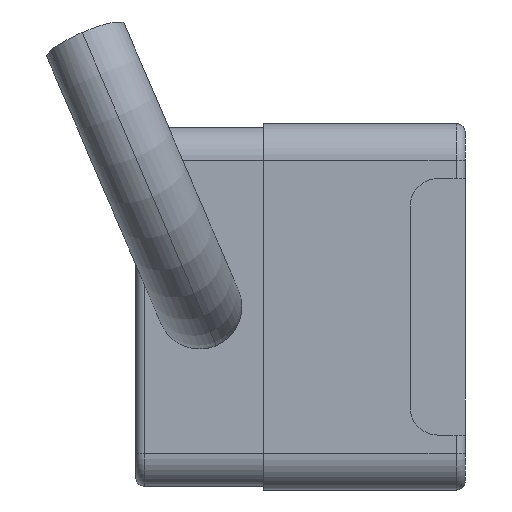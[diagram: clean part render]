
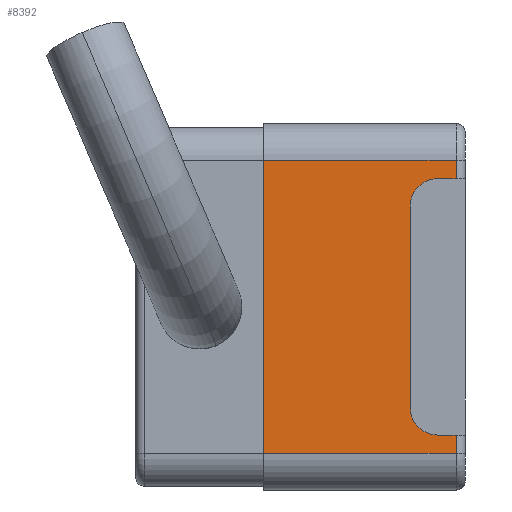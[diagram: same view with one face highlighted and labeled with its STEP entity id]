
A CAD part, left-side view. The second image highlights one B-rep face of the part: STEP entity #8392.
In plain terms, the highlighted planar face has unit normal (-1, 0, 0).
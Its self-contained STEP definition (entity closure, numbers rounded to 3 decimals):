
#645 = LINE ( 'NONE', #18515, #34748 ) ;
#906 = EDGE_CURVE ( 'NONE', #22354, #38341, #6387, .T. ) ;
#1190 = EDGE_CURVE ( 'NONE', #38341, #4921, #38530, .T. ) ;
#1399 = CARTESIAN_POINT ( 'NONE',  ( -29., 3., 5.5 ) ) ;
#1416 = LINE ( 'NONE', #26604, #11316 ) ;
#1707 = VECTOR ( 'NONE', #28658, 1000. ) ;
#2335 = VERTEX_POINT ( 'NONE', #19819 ) ;
#2623 = CARTESIAN_POINT ( 'NONE',  ( -29., 11., -8. ) ) ;
#2825 = LINE ( 'NONE', #16798, #9719 ) ;
#3538 = DIRECTION ( 'NONE',  ( 0., 0., 1. ) ) ;
#3959 = DIRECTION ( 'NONE',  ( 0., 0., -1. ) ) ;
#4315 = DIRECTION ( 'NONE',  ( 0., 0., -1. ) ) ;
#4409 = EDGE_LOOP ( 'NONE', ( #32370, #28076, #7378, #15731, #39833, #7753, #40887, #23456, #39474, #16078 ) ) ;
#4921 = VERTEX_POINT ( 'NONE', #1399 ) ;
#5326 = VERTEX_POINT ( 'NONE', #30192 ) ;
#6387 = LINE ( 'NONE', #25136, #37779 ) ;
#6443 = VERTEX_POINT ( 'NONE', #14800 ) ;
#6631 = EDGE_CURVE ( 'NONE', #10278, #25390, #12970, .T. ) ;
#6984 = LINE ( 'NONE', #20963, #26094 ) ;
#7378 = ORIENTED_EDGE ( 'NONE', *, *, #34132, .T. ) ;
#7753 = ORIENTED_EDGE ( 'NONE', *, *, #41435, .F. ) ;
#8392 = ADVANCED_FACE ( 'NONE', ( #32332 ), #24993, .F. ) ;
#8580 = CARTESIAN_POINT ( 'NONE',  ( -29., 0., -7. ) ) ;
#9540 = EDGE_CURVE ( 'NONE', #6443, #16071, #23466, .T. ) ;
#9719 = VECTOR ( 'NONE', #44752, 1000. ) ;
#9937 = CARTESIAN_POINT ( 'NONE',  ( -29., 11., 8. ) ) ;
#10278 = VERTEX_POINT ( 'NONE', #2623 ) ;
#11316 = VECTOR ( 'NONE', #22724, 1000. ) ;
#11764 = CARTESIAN_POINT ( 'NONE',  ( -29., 1.5, 7. ) ) ;
#12218 = AXIS2_PLACEMENT_3D ( 'NONE', #29259, #41390, #3959 ) ;
#12970 = LINE ( 'NONE', #32903, #24864 ) ;
#13207 = AXIS2_PLACEMENT_3D ( 'NONE', #26720, #42480, #13643 ) ;
#13643 = DIRECTION ( 'NONE',  ( 0., 0., -1. ) ) ;
#13981 = AXIS2_PLACEMENT_3D ( 'NONE', #32107, #15164, #28656 ) ;
#14152 = DIRECTION ( 'NONE',  ( 0., 1., 0. ) ) ;
#14582 = EDGE_CURVE ( 'NONE', #16071, #2335, #39970, .T. ) ;
#14800 = CARTESIAN_POINT ( 'NONE',  ( -29., 3., -5.5 ) ) ;
#15164 = DIRECTION ( 'NONE',  ( 1., 0., 0. ) ) ;
#15731 = ORIENTED_EDGE ( 'NONE', *, *, #14582, .F. ) ;
#15950 = DIRECTION ( 'NONE',  ( 0., -1., 0. ) ) ;
#16071 = VERTEX_POINT ( 'NONE', #43597 ) ;
#16078 = ORIENTED_EDGE ( 'NONE', *, *, #32590, .T. ) ;
#16798 = CARTESIAN_POINT ( 'NONE',  ( -29., 0.5, 8. ) ) ;
#18515 = CARTESIAN_POINT ( 'NONE',  ( -29., 3., -5.5 ) ) ;
#19819 = CARTESIAN_POINT ( 'NONE',  ( -29., 0.5, -7. ) ) ;
#20963 = CARTESIAN_POINT ( 'NONE',  ( -29., 0.5, 8. ) ) ;
#22354 = VERTEX_POINT ( 'NONE', #43600 ) ;
#22724 = DIRECTION ( 'NONE',  ( 0., 0., 1. ) ) ;
#23456 = ORIENTED_EDGE ( 'NONE', *, *, #906, .F. ) ;
#23466 = CIRCLE ( 'NONE', #13207, 1.5 ) ;
#24864 = VECTOR ( 'NONE', #15950, 1000. ) ;
#24993 = PLANE ( 'NONE',  #13981 ) ;
#25136 = CARTESIAN_POINT ( 'NONE',  ( -29., 0., 7. ) ) ;
#25390 = VERTEX_POINT ( 'NONE', #39467 ) ;
#26094 = VECTOR ( 'NONE', #3538, 1000. ) ;
#26604 = CARTESIAN_POINT ( 'NONE',  ( -29., 11., 10. ) ) ;
#26720 = CARTESIAN_POINT ( 'NONE',  ( -29., 1.5, -5.5 ) ) ;
#28076 = ORIENTED_EDGE ( 'NONE', *, *, #6631, .T. ) ;
#28246 = EDGE_CURVE ( 'NONE', #10278, #43493, #1416, .T. ) ;
#28656 = DIRECTION ( 'NONE',  ( 0., 1., 0. ) ) ;
#28658 = DIRECTION ( 'NONE',  ( 0., 1., 0. ) ) ;
#29259 = CARTESIAN_POINT ( 'NONE',  ( -29., 1.5, 5.5 ) ) ;
#30192 = CARTESIAN_POINT ( 'NONE',  ( -29., 0.5, 8. ) ) ;
#32107 = CARTESIAN_POINT ( 'NONE',  ( -29., 10., 10. ) ) ;
#32332 = FACE_OUTER_BOUND ( 'NONE', #4409, .T. ) ;
#32370 = ORIENTED_EDGE ( 'NONE', *, *, #28246, .F. ) ;
#32590 = EDGE_CURVE ( 'NONE', #5326, #43493, #40143, .T. ) ;
#32903 = CARTESIAN_POINT ( 'NONE',  ( -29., 10., -8. ) ) ;
#33083 = DIRECTION ( 'NONE',  ( 0., -1., 0. ) ) ;
#34132 = EDGE_CURVE ( 'NONE', #25390, #2335, #2825, .T. ) ;
#34633 = VECTOR ( 'NONE', #33083, 1000. ) ;
#34748 = VECTOR ( 'NONE', #4315, 1000. ) ;
#37779 = VECTOR ( 'NONE', #14152, 1000. ) ;
#38341 = VERTEX_POINT ( 'NONE', #11764 ) ;
#38530 = CIRCLE ( 'NONE', #12218, 1.5 ) ;
#39467 = CARTESIAN_POINT ( 'NONE',  ( -29., 0.5, -8. ) ) ;
#39474 = ORIENTED_EDGE ( 'NONE', *, *, #39617, .T. ) ;
#39617 = EDGE_CURVE ( 'NONE', #22354, #5326, #6984, .T. ) ;
#39833 = ORIENTED_EDGE ( 'NONE', *, *, #9540, .F. ) ;
#39970 = LINE ( 'NONE', #8580, #34633 ) ;
#40143 = LINE ( 'NONE', #42891, #1707 ) ;
#40887 = ORIENTED_EDGE ( 'NONE', *, *, #1190, .F. ) ;
#41390 = DIRECTION ( 'NONE',  ( -1., 0., 0. ) ) ;
#41435 = EDGE_CURVE ( 'NONE', #4921, #6443, #645, .T. ) ;
#42480 = DIRECTION ( 'NONE',  ( -1., 0., 0. ) ) ;
#42891 = CARTESIAN_POINT ( 'NONE',  ( -29., 10., 8. ) ) ;
#43493 = VERTEX_POINT ( 'NONE', #9937 ) ;
#43597 = CARTESIAN_POINT ( 'NONE',  ( -29., 1.5, -7. ) ) ;
#43600 = CARTESIAN_POINT ( 'NONE',  ( -29., 0.5, 7. ) ) ;
#44752 = DIRECTION ( 'NONE',  ( 0., 0., 1. ) ) ;
